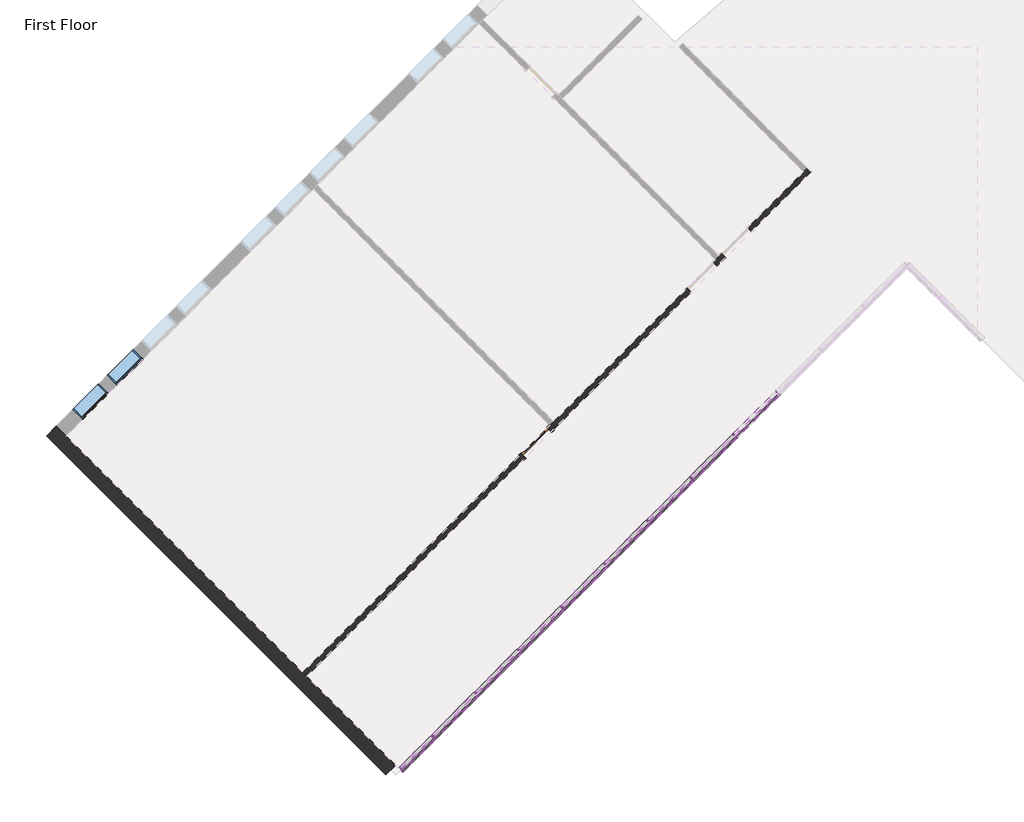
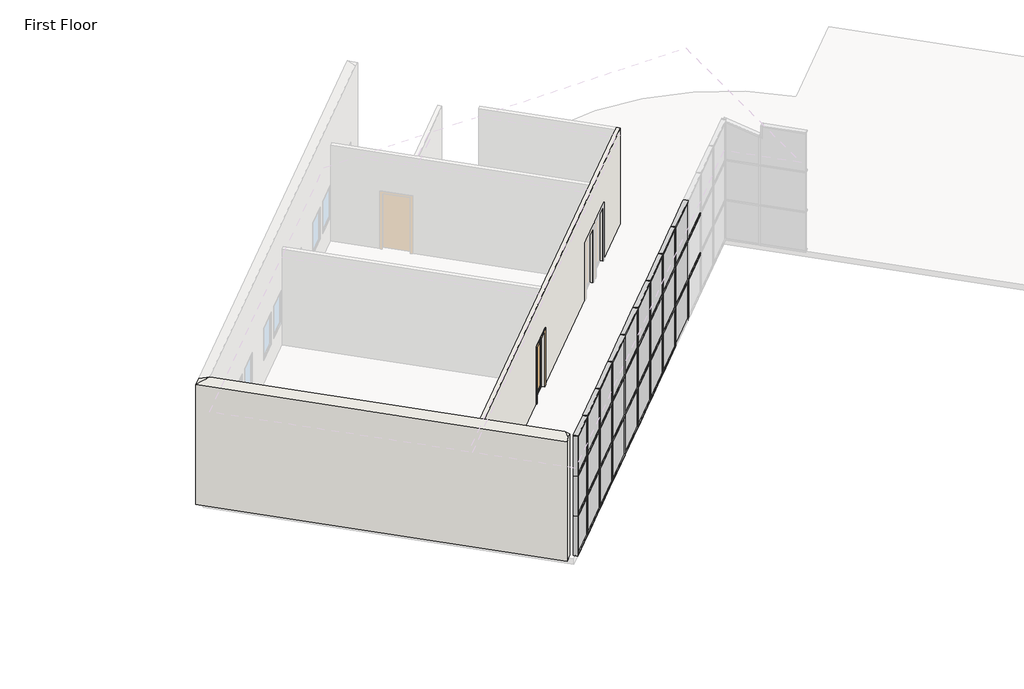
# One storey, part 1 of 4: 65 members, 27 plates, 2 walls, 2 windows, 1 door.
"""IFC4 building model written with IfcOpenShell, lengths in millimetres."""

from ifc_helpers import new_model, si_unit, origin, place, context, project, spatial, faceted_brep, transform, mapped, element, save
from components import m_single_glass_1_0915_x_2134mm_fb3287b7, rectangular_mullion_50_x_150mm_a1635f5b, rectangular_mullion_50_x_150mm_40297ad3, rectangular_mullion_50_x_150mm_f494fff1, rectangular_mullion_50_x_150mm_97ff1a0c, rectangular_mullion_50_x_150mm_5da8f88f, rectangular_mullion_50_x_150mm_6261b450, rectangular_mullion_50_x_150mm_4d330a12, rectangular_mullion_50_x_150mm_c13bad7a, system_panel_glazed_a417ca2b, system_panel_glazed_7c4ff273, system_panel_glazed_0df73d5a, system_panel_glazed_71216330, system_panel_solid_7096e89f, system_panel_solid_df1dc4a9, m_fixed_0915_x_1220mm_bde29121

model = new_model("IFC4")

# Units and contexts
model_context = context("Model", 3, world=origin())
ifc_project = project(units=[si_unit("LENGTHUNIT", "METRE", prefix="MILLI")], contexts=[model_context])

# Site, building, storey
site = spatial("IfcSite", under=ifc_project)
building = spatial("IfcBuilding", under=site)
storey = spatial("IfcBuildingStorey", under=building, Name="First Floor", Elevation=0.0)

# Door
placement = place(None, origin())
m_single_glass_1_0915_x_2134mm_shape = m_single_glass_1_0915_x_2134mm_fb3287b7(model_context)
element("IfcDoor", 1, ObjectType="M_Single-Glass 1 : 0915 x 2134mm", at=placement, inside=storey, context=model_context, shape_type="MappedRepresentation", body=[
    mapped(m_single_glass_1_0915_x_2134mm_shape, transform((-10885.2041795, -2483.8084826, 0.0), x_axis=(0.7071067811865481, 0.7071067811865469, 0.0), y_axis=(-0.7071067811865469, 0.7071067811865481, 0.0), z_axis=(0.0, 0.0, 1.0))),
])

# Members
rectangular_mullion_50_x_150mm_shape = rectangular_mullion_50_x_150mm_a1635f5b(model_context)
element("IfcMember", 2, ObjectType="Rectangular Mullion : 50 x 150mm", at=placement, inside=storey, context=model_context, shape_type="MappedRepresentation", body=[
    mapped(rectangular_mullion_50_x_150mm_shape, transform((-14249.9717978, -10654.0737858, 4571.7250795), x_axis=(0.0, 0.0, 1.0), y_axis=(-0.7071067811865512, 0.7071067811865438, 0.0), z_axis=(-0.7071067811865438, -0.7071067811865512, 0.0))),
])
rectangular_mullion_50_x_150mm_2_shape = rectangular_mullion_50_x_150mm_40297ad3(model_context)
element("IfcMember", 3, ObjectType="Rectangular Mullion : 50 x 150mm", at=placement, inside=storey, context=model_context, shape_type="MappedRepresentation", body=[
    mapped(rectangular_mullion_50_x_150mm_2_shape, transform((-4834.1378995, -1238.2398875, 0.0), x_axis=(-0.7071067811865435, -0.7071067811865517, 0.0), y_axis=(-0.7071067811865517, 0.7071067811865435, 0.0), z_axis=(0.0, 0.0, -1.0))),
])
element("IfcMember", 4, ObjectType="Rectangular Mullion : 50 x 150mm", at=placement, inside=storey, context=model_context, shape_type="MappedRepresentation", body=[
    mapped(rectangular_mullion_50_x_150mm_2_shape, transform((-5911.768634, -2315.870622, 0.0), x_axis=(-0.7071067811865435, -0.7071067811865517, 0.0), y_axis=(-0.7071067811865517, 0.7071067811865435, 0.0), z_axis=(0.0, 0.0, -1.0))),
])
element("IfcMember", 5, ObjectType="Rectangular Mullion : 50 x 150mm", at=placement, inside=storey, context=model_context, shape_type="MappedRepresentation", body=[
    mapped(rectangular_mullion_50_x_150mm_2_shape, transform((-6989.3993686, -3393.5013566, 0.0), x_axis=(-0.7071067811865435, -0.7071067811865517, 0.0), y_axis=(-0.7071067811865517, 0.7071067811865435, 0.0), z_axis=(0.0, 0.0, -1.0))),
])
element("IfcMember", 6, ObjectType="Rectangular Mullion : 50 x 150mm", at=placement, inside=storey, context=model_context, shape_type="MappedRepresentation", body=[
    mapped(rectangular_mullion_50_x_150mm_2_shape, transform((-8067.0301031, -4471.1320911, 0.0), x_axis=(-0.7071067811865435, -0.7071067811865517, 0.0), y_axis=(-0.7071067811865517, 0.7071067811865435, 0.0), z_axis=(0.0, 0.0, -1.0))),
])
element("IfcMember", 7, ObjectType="Rectangular Mullion : 50 x 150mm", at=placement, inside=storey, context=model_context, shape_type="MappedRepresentation", body=[
    mapped(rectangular_mullion_50_x_150mm_2_shape, transform((-9144.6608376, -5548.7628256, 0.0), x_axis=(-0.7071067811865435, -0.7071067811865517, 0.0), y_axis=(-0.7071067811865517, 0.7071067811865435, 0.0), z_axis=(0.0, 0.0, -1.0))),
])
element("IfcMember", 8, ObjectType="Rectangular Mullion : 50 x 150mm", at=placement, inside=storey, context=model_context, shape_type="MappedRepresentation", body=[
    mapped(rectangular_mullion_50_x_150mm_2_shape, transform((-10222.2915721, -6626.3935602, 0.0), x_axis=(-0.7071067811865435, -0.7071067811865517, 0.0), y_axis=(-0.7071067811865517, 0.7071067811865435, 0.0), z_axis=(0.0, 0.0, -1.0))),
])
element("IfcMember", 9, ObjectType="Rectangular Mullion : 50 x 150mm", at=placement, inside=storey, context=model_context, shape_type="MappedRepresentation", body=[
    mapped(rectangular_mullion_50_x_150mm_2_shape, transform((-11299.9223067, -7704.0242947, 0.0), x_axis=(-0.7071067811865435, -0.7071067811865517, 0.0), y_axis=(-0.7071067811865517, 0.7071067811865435, 0.0), z_axis=(0.0, 0.0, -1.0))),
])
element("IfcMember", 10, ObjectType="Rectangular Mullion : 50 x 150mm", at=placement, inside=storey, context=model_context, shape_type="MappedRepresentation", body=[
    mapped(rectangular_mullion_50_x_150mm_2_shape, transform((-12377.5530412, -8781.6550292, 0.0), x_axis=(-0.7071067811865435, -0.7071067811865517, 0.0), y_axis=(-0.7071067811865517, 0.7071067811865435, 0.0), z_axis=(0.0, 0.0, -1.0))),
])
element("IfcMember", 11, ObjectType="Rectangular Mullion : 50 x 150mm", at=placement, inside=storey, context=model_context, shape_type="MappedRepresentation", body=[
    mapped(rectangular_mullion_50_x_150mm_2_shape, transform((-13455.1837757, -9859.2857637, 0.0), x_axis=(-0.7071067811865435, -0.7071067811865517, 0.0), y_axis=(-0.7071067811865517, 0.7071067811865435, 0.0), z_axis=(0.0, 0.0, -1.0))),
])
rectangular_mullion_50_x_150mm_3_shape = rectangular_mullion_50_x_150mm_f494fff1(model_context)
element("IfcMember", 12, ObjectType="Rectangular Mullion : 50 x 150mm", at=placement, inside=storey, context=model_context, shape_type="MappedRepresentation", body=[
    mapped(rectangular_mullion_50_x_150mm_3_shape, transform((-4816.46023, -1220.562218, 1524.0), x_axis=(0.0, 0.0, 1.0), y_axis=(-0.7071067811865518, 0.7071067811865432, 0.0), z_axis=(-0.7071067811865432, -0.7071067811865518, 0.0))),
])
element("IfcMember", 13, ObjectType="Rectangular Mullion : 50 x 150mm", at=placement, inside=storey, context=model_context, shape_type="MappedRepresentation", body=[
    mapped(rectangular_mullion_50_x_150mm_3_shape, transform((-5894.0909645, -2298.1929525, 1524.0), x_axis=(0.0, 0.0, 1.0), y_axis=(-0.7071067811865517, 0.7071067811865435, 0.0), z_axis=(-0.7071067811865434, -0.7071067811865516, 0.0))),
])
element("IfcMember", 14, ObjectType="Rectangular Mullion : 50 x 150mm", at=placement, inside=storey, context=model_context, shape_type="MappedRepresentation", body=[
    mapped(rectangular_mullion_50_x_150mm_3_shape, transform((-6971.721699, -3375.823687, 1524.0), x_axis=(0.0, 0.0, 1.0), y_axis=(-0.7071067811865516, 0.7071067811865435, 0.0), z_axis=(-0.7071067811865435, -0.7071067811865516, 0.0))),
])
element("IfcMember", 15, ObjectType="Rectangular Mullion : 50 x 150mm", at=placement, inside=storey, context=model_context, shape_type="MappedRepresentation", body=[
    mapped(rectangular_mullion_50_x_150mm_3_shape, transform((-8049.3524335, -4453.4544216, 1524.0), x_axis=(0.0, 0.0, 1.0), y_axis=(-0.7071067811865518, 0.7071067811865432, 0.0), z_axis=(-0.7071067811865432, -0.7071067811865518, 0.0))),
])
element("IfcMember", 16, ObjectType="Rectangular Mullion : 50 x 150mm", at=placement, inside=storey, context=model_context, shape_type="MappedRepresentation", body=[
    mapped(rectangular_mullion_50_x_150mm_3_shape, transform((-9126.9831681, -5531.0851561, 1524.0), x_axis=(0.0, 0.0, 1.0), y_axis=(-0.7071067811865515, 0.7071067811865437, 0.0), z_axis=(-0.7071067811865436, -0.7071067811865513, 0.0))),
])
element("IfcMember", 17, ObjectType="Rectangular Mullion : 50 x 150mm", at=placement, inside=storey, context=model_context, shape_type="MappedRepresentation", body=[
    mapped(rectangular_mullion_50_x_150mm_3_shape, transform((-10204.6139026, -6608.7158906, 1524.0), x_axis=(0.0, 0.0, 1.0), y_axis=(-0.7071067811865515, 0.7071067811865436, 0.0), z_axis=(-0.7071067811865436, -0.7071067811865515, 0.0))),
])
element("IfcMember", 18, ObjectType="Rectangular Mullion : 50 x 150mm", at=placement, inside=storey, context=model_context, shape_type="MappedRepresentation", body=[
    mapped(rectangular_mullion_50_x_150mm_3_shape, transform((-11282.2446371, -7686.3466252, 1524.0), x_axis=(0.0, 0.0, 1.0), y_axis=(-0.7071067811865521, 0.7071067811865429, 0.0), z_axis=(-0.7071067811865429, -0.7071067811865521, 0.0))),
])
element("IfcMember", 19, ObjectType="Rectangular Mullion : 50 x 150mm", at=placement, inside=storey, context=model_context, shape_type="MappedRepresentation", body=[
    mapped(rectangular_mullion_50_x_150mm_3_shape, transform((-12359.8753717, -8763.9773597, 1524.0), x_axis=(0.0, 0.0, 1.0), y_axis=(-0.7071067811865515, 0.7071067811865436, 0.0), z_axis=(-0.7071067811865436, -0.7071067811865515, 0.0))),
])
element("IfcMember", 20, ObjectType="Rectangular Mullion : 50 x 150mm", at=placement, inside=storey, context=model_context, shape_type="MappedRepresentation", body=[
    mapped(rectangular_mullion_50_x_150mm_3_shape, transform((-13437.5061062, -9841.6080942, 1524.0), x_axis=(0.0, 0.0, 1.0), y_axis=(-0.7071067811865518, 0.7071067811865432, 0.0), z_axis=(-0.7071067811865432, -0.7071067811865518, 0.0))),
])
element("IfcMember", 21, ObjectType="Rectangular Mullion : 50 x 150mm", at=placement, inside=storey, context=model_context, shape_type="MappedRepresentation", body=[
    mapped(rectangular_mullion_50_x_150mm_3_shape, transform((-4816.46023, -1220.562218, 3048.0), x_axis=(0.0, 0.0, 1.0), y_axis=(-0.7071067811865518, 0.7071067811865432, 0.0), z_axis=(-0.7071067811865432, -0.7071067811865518, 0.0))),
])
element("IfcMember", 22, ObjectType="Rectangular Mullion : 50 x 150mm", at=placement, inside=storey, context=model_context, shape_type="MappedRepresentation", body=[
    mapped(rectangular_mullion_50_x_150mm_3_shape, transform((-5894.0909645, -2298.1929525, 3048.0), x_axis=(0.0, 0.0, 1.0), y_axis=(-0.7071067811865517, 0.7071067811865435, 0.0), z_axis=(-0.7071067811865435, -0.7071067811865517, 0.0))),
])
element("IfcMember", 23, ObjectType="Rectangular Mullion : 50 x 150mm", at=placement, inside=storey, context=model_context, shape_type="MappedRepresentation", body=[
    mapped(rectangular_mullion_50_x_150mm_3_shape, transform((-6971.721699, -3375.823687, 3048.0), x_axis=(0.0, 0.0, 1.0), y_axis=(-0.7071067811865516, 0.7071067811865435, 0.0), z_axis=(-0.7071067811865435, -0.7071067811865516, 0.0))),
])
element("IfcMember", 24, ObjectType="Rectangular Mullion : 50 x 150mm", at=placement, inside=storey, context=model_context, shape_type="MappedRepresentation", body=[
    mapped(rectangular_mullion_50_x_150mm_3_shape, transform((-8049.3524335, -4453.4544216, 3048.0), x_axis=(0.0, 0.0, 1.0), y_axis=(-0.7071067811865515, 0.7071067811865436, 0.0), z_axis=(-0.7071067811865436, -0.7071067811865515, 0.0))),
])
element("IfcMember", 25, ObjectType="Rectangular Mullion : 50 x 150mm", at=placement, inside=storey, context=model_context, shape_type="MappedRepresentation", body=[
    mapped(rectangular_mullion_50_x_150mm_3_shape, transform((-9126.9831681, -5531.0851561, 3048.0), x_axis=(0.0, 0.0, 1.0), y_axis=(-0.7071067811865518, 0.7071067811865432, 0.0), z_axis=(-0.7071067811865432, -0.7071067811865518, 0.0))),
])
element("IfcMember", 26, ObjectType="Rectangular Mullion : 50 x 150mm", at=placement, inside=storey, context=model_context, shape_type="MappedRepresentation", body=[
    mapped(rectangular_mullion_50_x_150mm_3_shape, transform((-10204.6139026, -6608.7158906, 3048.0), x_axis=(0.0, 0.0, 1.0), y_axis=(-0.7071067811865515, 0.7071067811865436, 0.0), z_axis=(-0.7071067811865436, -0.7071067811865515, 0.0))),
])
element("IfcMember", 27, ObjectType="Rectangular Mullion : 50 x 150mm", at=placement, inside=storey, context=model_context, shape_type="MappedRepresentation", body=[
    mapped(rectangular_mullion_50_x_150mm_3_shape, transform((-11282.2446371, -7686.3466252, 3048.0), x_axis=(0.0, 0.0, 1.0), y_axis=(-0.7071067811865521, 0.7071067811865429, 0.0), z_axis=(-0.7071067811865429, -0.7071067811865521, 0.0))),
])
element("IfcMember", 28, ObjectType="Rectangular Mullion : 50 x 150mm", at=placement, inside=storey, context=model_context, shape_type="MappedRepresentation", body=[
    mapped(rectangular_mullion_50_x_150mm_3_shape, transform((-12359.8753717, -8763.9773597, 3048.0), x_axis=(0.0, 0.0, 1.0), y_axis=(-0.7071067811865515, 0.7071067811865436, 0.0), z_axis=(-0.7071067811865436, -0.7071067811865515, 0.0))),
])
element("IfcMember", 29, ObjectType="Rectangular Mullion : 50 x 150mm", at=placement, inside=storey, context=model_context, shape_type="MappedRepresentation", body=[
    mapped(rectangular_mullion_50_x_150mm_3_shape, transform((-13437.5061062, -9841.6080942, 3048.0), x_axis=(0.0, 0.0, 1.0), y_axis=(-0.7071067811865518, 0.7071067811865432, 0.0), z_axis=(-0.7071067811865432, -0.7071067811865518, 0.0))),
])
rectangular_mullion_50_x_150mm_4_shape = rectangular_mullion_50_x_150mm_97ff1a0c(model_context)
element("IfcMember", 30, ObjectType="Rectangular Mullion : 50 x 150mm", at=placement, inside=storey, context=model_context, shape_type="MappedRepresentation", body=[
    mapped(rectangular_mullion_50_x_150mm_4_shape, transform((-14249.9717978, -10654.0737858, 1524.0), x_axis=(0.0, 0.0, 1.0), y_axis=(-0.7071067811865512, 0.7071067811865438, 0.0), z_axis=(-0.7071067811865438, -0.7071067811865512, 0.0))),
])
element("IfcMember", 31, ObjectType="Rectangular Mullion : 50 x 150mm", at=placement, inside=storey, context=model_context, shape_type="MappedRepresentation", body=[
    mapped(rectangular_mullion_50_x_150mm_4_shape, transform((-14249.9717978, -10654.0737858, 3048.0), x_axis=(0.0, 0.0, 1.0), y_axis=(-0.7071067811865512, 0.7071067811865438, 0.0), z_axis=(-0.7071067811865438, -0.7071067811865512, 0.0))),
])
rectangular_mullion_50_x_150mm_5_shape = rectangular_mullion_50_x_150mm_5da8f88f(model_context)
element("IfcMember", 32, ObjectType="Rectangular Mullion : 50 x 150mm", at=placement, inside=storey, context=model_context, shape_type="MappedRepresentation", body=[
    mapped(rectangular_mullion_50_x_150mm_5_shape, transform((-5929.4463036, -2333.5482916, 0.0), x_axis=(0.0, 0.0, -1.0), y_axis=(-0.7071067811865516, 0.7071067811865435, 0.0), z_axis=(0.7071067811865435, 0.7071067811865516, 0.0))),
])
element("IfcMember", 33, ObjectType="Rectangular Mullion : 50 x 150mm", at=placement, inside=storey, context=model_context, shape_type="MappedRepresentation", body=[
    mapped(rectangular_mullion_50_x_150mm_5_shape, transform((-7007.0770381, -3411.1790261, 0.0), x_axis=(0.0, 0.0, -1.0), y_axis=(-0.7071067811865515, 0.7071067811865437, 0.0), z_axis=(0.7071067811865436, 0.7071067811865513, 0.0))),
])
element("IfcMember", 34, ObjectType="Rectangular Mullion : 50 x 150mm", at=placement, inside=storey, context=model_context, shape_type="MappedRepresentation", body=[
    mapped(rectangular_mullion_50_x_150mm_5_shape, transform((-8084.7077726, -4488.8097606, 0.0), x_axis=(0.0, 0.0, -1.0), y_axis=(-0.7071067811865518, 0.7071067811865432, 0.0), z_axis=(0.7071067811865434, 0.7071067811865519, 0.0))),
])
element("IfcMember", 35, ObjectType="Rectangular Mullion : 50 x 150mm", at=placement, inside=storey, context=model_context, shape_type="MappedRepresentation", body=[
    mapped(rectangular_mullion_50_x_150mm_5_shape, transform((-9162.3385071, -5566.4404952, 0.0), x_axis=(0.0, 0.0, -1.0), y_axis=(-0.7071067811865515, 0.7071067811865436, 0.0), z_axis=(0.7071067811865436, 0.7071067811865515, 0.0))),
])
element("IfcMember", 36, ObjectType="Rectangular Mullion : 50 x 150mm", at=placement, inside=storey, context=model_context, shape_type="MappedRepresentation", body=[
    mapped(rectangular_mullion_50_x_150mm_5_shape, transform((-10239.9692417, -6644.0712297, 0.0), x_axis=(0.0, 0.0, -1.0), y_axis=(-0.7071067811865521, 0.7071067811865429, 0.0), z_axis=(0.7071067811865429, 0.7071067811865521, 0.0))),
])
element("IfcMember", 37, ObjectType="Rectangular Mullion : 50 x 150mm", at=placement, inside=storey, context=model_context, shape_type="MappedRepresentation", body=[
    mapped(rectangular_mullion_50_x_150mm_5_shape, transform((-11317.5999762, -7721.7019642, 0.0), x_axis=(0.0, 0.0, -1.0), y_axis=(-0.7071067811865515, 0.7071067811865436, 0.0), z_axis=(0.7071067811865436, 0.7071067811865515, 0.0))),
])
element("IfcMember", 38, ObjectType="Rectangular Mullion : 50 x 150mm", at=placement, inside=storey, context=model_context, shape_type="MappedRepresentation", body=[
    mapped(rectangular_mullion_50_x_150mm_5_shape, transform((-12395.2307107, -8799.3326987, 0.0), x_axis=(0.0, 0.0, -1.0), y_axis=(-0.7071067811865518, 0.7071067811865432, 0.0), z_axis=(0.7071067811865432, 0.7071067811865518, 0.0))),
])
element("IfcMember", 39, ObjectType="Rectangular Mullion : 50 x 150mm", at=placement, inside=storey, context=model_context, shape_type="MappedRepresentation", body=[
    mapped(rectangular_mullion_50_x_150mm_shape, transform((-13472.8614453, -9876.9634333, 0.0), x_axis=(0.0, 0.0, -1.0), y_axis=(-0.7071067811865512, 0.7071067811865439, 0.0), z_axis=(0.7071067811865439, 0.7071067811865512, 0.0))),
])
element("IfcMember", 40, ObjectType="Rectangular Mullion : 50 x 150mm", at=placement, inside=storey, context=model_context, shape_type="MappedRepresentation", body=[
    mapped(rectangular_mullion_50_x_150mm_5_shape, transform((-5894.0909645, -2298.1929525, 4571.7250795), x_axis=(0.0, 0.0, 1.0), y_axis=(-0.7071067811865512, 0.7071067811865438, 0.0), z_axis=(-0.7071067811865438, -0.7071067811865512, 0.0))),
])
element("IfcMember", 41, ObjectType="Rectangular Mullion : 50 x 150mm", at=placement, inside=storey, context=model_context, shape_type="MappedRepresentation", body=[
    mapped(rectangular_mullion_50_x_150mm_5_shape, transform((-6971.721699, -3375.823687, 4571.7250795), x_axis=(0.0, 0.0, 1.0), y_axis=(-0.707106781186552, 0.7071067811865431, 0.0), z_axis=(-0.707106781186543, -0.7071067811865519, 0.0))),
])
element("IfcMember", 42, ObjectType="Rectangular Mullion : 50 x 150mm", at=placement, inside=storey, context=model_context, shape_type="MappedRepresentation", body=[
    mapped(rectangular_mullion_50_x_150mm_5_shape, transform((-8049.3524335, -4453.4544216, 4571.7250795), x_axis=(0.0, 0.0, 1.0), y_axis=(-0.7071067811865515, 0.7071067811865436, 0.0), z_axis=(-0.7071067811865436, -0.7071067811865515, 0.0))),
])
element("IfcMember", 43, ObjectType="Rectangular Mullion : 50 x 150mm", at=placement, inside=storey, context=model_context, shape_type="MappedRepresentation", body=[
    mapped(rectangular_mullion_50_x_150mm_5_shape, transform((-9126.9831681, -5531.0851561, 4571.7250795), x_axis=(0.0, 0.0, 1.0), y_axis=(-0.7071067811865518, 0.7071067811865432, 0.0), z_axis=(-0.7071067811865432, -0.7071067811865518, 0.0))),
])
element("IfcMember", 44, ObjectType="Rectangular Mullion : 50 x 150mm", at=placement, inside=storey, context=model_context, shape_type="MappedRepresentation", body=[
    mapped(rectangular_mullion_50_x_150mm_5_shape, transform((-10204.6139026, -6608.7158906, 4571.7250795), x_axis=(0.0, 0.0, 1.0), y_axis=(-0.7071067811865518, 0.7071067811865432, 0.0), z_axis=(-0.7071067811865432, -0.7071067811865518, 0.0))),
])
element("IfcMember", 45, ObjectType="Rectangular Mullion : 50 x 150mm", at=placement, inside=storey, context=model_context, shape_type="MappedRepresentation", body=[
    mapped(rectangular_mullion_50_x_150mm_5_shape, transform((-11282.2446371, -7686.3466252, 4571.7250795), x_axis=(0.0, 0.0, 1.0), y_axis=(-0.7071067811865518, 0.7071067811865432, 0.0), z_axis=(-0.7071067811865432, -0.7071067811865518, 0.0))),
])
element("IfcMember", 46, ObjectType="Rectangular Mullion : 50 x 150mm", at=placement, inside=storey, context=model_context, shape_type="MappedRepresentation", body=[
    mapped(rectangular_mullion_50_x_150mm_5_shape, transform((-12359.8753717, -8763.9773597, 4571.7250795), x_axis=(0.0, 0.0, 1.0), y_axis=(-0.7071067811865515, 0.7071067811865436, 0.0), z_axis=(-0.7071067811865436, -0.7071067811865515, 0.0))),
])
element("IfcMember", 47, ObjectType="Rectangular Mullion : 50 x 150mm", at=placement, inside=storey, context=model_context, shape_type="MappedRepresentation", body=[
    mapped(rectangular_mullion_50_x_150mm_5_shape, transform((-13437.5061062, -9841.6080942, 4571.7250795), x_axis=(0.0, 0.0, 1.0), y_axis=(-0.7071067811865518, 0.7071067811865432, 0.0), z_axis=(-0.7071067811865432, -0.7071067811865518, 0.0))),
])
element("IfcMember", 48, ObjectType="Rectangular Mullion : 50 x 150mm", at=placement, inside=storey, context=model_context, shape_type="MappedRepresentation", body=[
    mapped(rectangular_mullion_50_x_150mm_2_shape, transform((-5911.768634, -2315.870622, 1524.0), x_axis=(-0.7071067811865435, -0.7071067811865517, 0.0), y_axis=(-0.7071067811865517, 0.7071067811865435, 0.0), z_axis=(0.0, 0.0, -1.0))),
])
element("IfcMember", 49, ObjectType="Rectangular Mullion : 50 x 150mm", at=placement, inside=storey, context=model_context, shape_type="MappedRepresentation", body=[
    mapped(rectangular_mullion_50_x_150mm_2_shape, transform((-6989.3993686, -3393.5013566, 1524.0), x_axis=(-0.7071067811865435, -0.7071067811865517, 0.0), y_axis=(-0.7071067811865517, 0.7071067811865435, 0.0), z_axis=(0.0, 0.0, -1.0))),
])
element("IfcMember", 50, ObjectType="Rectangular Mullion : 50 x 150mm", at=placement, inside=storey, context=model_context, shape_type="MappedRepresentation", body=[
    mapped(rectangular_mullion_50_x_150mm_2_shape, transform((-8067.0301031, -4471.1320911, 1524.0), x_axis=(-0.7071067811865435, -0.7071067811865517, 0.0), y_axis=(-0.7071067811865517, 0.7071067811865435, 0.0), z_axis=(0.0, 0.0, -1.0))),
])
element("IfcMember", 51, ObjectType="Rectangular Mullion : 50 x 150mm", at=placement, inside=storey, context=model_context, shape_type="MappedRepresentation", body=[
    mapped(rectangular_mullion_50_x_150mm_2_shape, transform((-9144.6608376, -5548.7628256, 1524.0), x_axis=(-0.7071067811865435, -0.7071067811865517, 0.0), y_axis=(-0.7071067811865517, 0.7071067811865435, 0.0), z_axis=(0.0, 0.0, -1.0))),
])
element("IfcMember", 52, ObjectType="Rectangular Mullion : 50 x 150mm", at=placement, inside=storey, context=model_context, shape_type="MappedRepresentation", body=[
    mapped(rectangular_mullion_50_x_150mm_2_shape, transform((-10222.2915721, -6626.3935602, 1524.0), x_axis=(-0.7071067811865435, -0.7071067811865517, 0.0), y_axis=(-0.7071067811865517, 0.7071067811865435, 0.0), z_axis=(0.0, 0.0, -1.0))),
])
element("IfcMember", 53, ObjectType="Rectangular Mullion : 50 x 150mm", at=placement, inside=storey, context=model_context, shape_type="MappedRepresentation", body=[
    mapped(rectangular_mullion_50_x_150mm_2_shape, transform((-11299.9223067, -7704.0242947, 1524.0), x_axis=(-0.7071067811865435, -0.7071067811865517, 0.0), y_axis=(-0.7071067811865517, 0.7071067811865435, 0.0), z_axis=(0.0, 0.0, -1.0))),
])
element("IfcMember", 54, ObjectType="Rectangular Mullion : 50 x 150mm", at=placement, inside=storey, context=model_context, shape_type="MappedRepresentation", body=[
    mapped(rectangular_mullion_50_x_150mm_2_shape, transform((-12377.5530412, -8781.6550292, 1524.0), x_axis=(-0.7071067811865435, -0.7071067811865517, 0.0), y_axis=(-0.7071067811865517, 0.7071067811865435, 0.0), z_axis=(0.0, 0.0, -1.0))),
])
element("IfcMember", 55, ObjectType="Rectangular Mullion : 50 x 150mm", at=placement, inside=storey, context=model_context, shape_type="MappedRepresentation", body=[
    mapped(rectangular_mullion_50_x_150mm_2_shape, transform((-13455.1837757, -9859.2857637, 1524.0), x_axis=(-0.7071067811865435, -0.7071067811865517, 0.0), y_axis=(-0.7071067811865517, 0.7071067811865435, 0.0), z_axis=(0.0, 0.0, -1.0))),
])
rectangular_mullion_50_x_150mm_6_shape = rectangular_mullion_50_x_150mm_6261b450(model_context)
element("IfcMember", 56, ObjectType="Rectangular Mullion : 50 x 150mm", at=placement, inside=storey, context=model_context, shape_type="MappedRepresentation", body=[
    mapped(rectangular_mullion_50_x_150mm_6_shape, transform((-5911.768634, -2315.870622, 3048.0), x_axis=(-0.7071067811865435, -0.7071067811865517, 0.0), y_axis=(-0.7071067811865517, 0.7071067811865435, 0.0), z_axis=(0.0, 0.0, -1.0))),
])
element("IfcMember", 57, ObjectType="Rectangular Mullion : 50 x 150mm", at=placement, inside=storey, context=model_context, shape_type="MappedRepresentation", body=[
    mapped(rectangular_mullion_50_x_150mm_6_shape, transform((-6989.3993686, -3393.5013566, 3048.0), x_axis=(-0.7071067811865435, -0.7071067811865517, 0.0), y_axis=(-0.7071067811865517, 0.7071067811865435, 0.0), z_axis=(0.0, 0.0, -1.0))),
])
element("IfcMember", 58, ObjectType="Rectangular Mullion : 50 x 150mm", at=placement, inside=storey, context=model_context, shape_type="MappedRepresentation", body=[
    mapped(rectangular_mullion_50_x_150mm_6_shape, transform((-8067.0301031, -4471.1320911, 3048.0), x_axis=(-0.7071067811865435, -0.7071067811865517, 0.0), y_axis=(-0.7071067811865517, 0.7071067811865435, 0.0), z_axis=(0.0, 0.0, -1.0))),
])
element("IfcMember", 59, ObjectType="Rectangular Mullion : 50 x 150mm", at=placement, inside=storey, context=model_context, shape_type="MappedRepresentation", body=[
    mapped(rectangular_mullion_50_x_150mm_6_shape, transform((-9144.6608376, -5548.7628256, 3048.0), x_axis=(-0.7071067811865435, -0.7071067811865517, 0.0), y_axis=(-0.7071067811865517, 0.7071067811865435, 0.0), z_axis=(0.0, 0.0, -1.0))),
])
element("IfcMember", 60, ObjectType="Rectangular Mullion : 50 x 150mm", at=placement, inside=storey, context=model_context, shape_type="MappedRepresentation", body=[
    mapped(rectangular_mullion_50_x_150mm_6_shape, transform((-10222.2915721, -6626.3935602, 3048.0), x_axis=(-0.7071067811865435, -0.7071067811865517, 0.0), y_axis=(-0.7071067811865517, 0.7071067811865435, 0.0), z_axis=(0.0, 0.0, -1.0))),
])
element("IfcMember", 61, ObjectType="Rectangular Mullion : 50 x 150mm", at=placement, inside=storey, context=model_context, shape_type="MappedRepresentation", body=[
    mapped(rectangular_mullion_50_x_150mm_6_shape, transform((-11299.9223067, -7704.0242947, 3048.0), x_axis=(-0.7071067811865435, -0.7071067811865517, 0.0), y_axis=(-0.7071067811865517, 0.7071067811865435, 0.0), z_axis=(0.0, 0.0, -1.0))),
])
element("IfcMember", 62, ObjectType="Rectangular Mullion : 50 x 150mm", at=placement, inside=storey, context=model_context, shape_type="MappedRepresentation", body=[
    mapped(rectangular_mullion_50_x_150mm_6_shape, transform((-12377.5530412, -8781.6550292, 3048.0), x_axis=(-0.7071067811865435, -0.7071067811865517, 0.0), y_axis=(-0.7071067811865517, 0.7071067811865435, 0.0), z_axis=(0.0, 0.0, -1.0))),
])
element("IfcMember", 63, ObjectType="Rectangular Mullion : 50 x 150mm", at=placement, inside=storey, context=model_context, shape_type="MappedRepresentation", body=[
    mapped(rectangular_mullion_50_x_150mm_6_shape, transform((-13455.1837757, -9859.2857637, 3048.0), x_axis=(-0.7071067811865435, -0.7071067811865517, 0.0), y_axis=(-0.7071067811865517, 0.7071067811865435, 0.0), z_axis=(0.0, 0.0, -1.0))),
])
rectangular_mullion_50_x_150mm_7_shape = rectangular_mullion_50_x_150mm_4d330a12(model_context)
element("IfcMember", 64, ObjectType="Rectangular Mullion : 50 x 150mm", at=placement, inside=storey, context=model_context, shape_type="MappedRepresentation", body=[
    mapped(rectangular_mullion_50_x_150mm_7_shape, transform((-14285.3271368, -10689.4291248, 0.0), x_axis=(-0.7071067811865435, -0.7071067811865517, 0.0), y_axis=(-0.7071067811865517, 0.7071067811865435, 0.0), z_axis=(0.0, 0.0, -1.0))),
])
element("IfcMember", 65, ObjectType="Rectangular Mullion : 50 x 150mm", at=placement, inside=storey, context=model_context, shape_type="MappedRepresentation", body=[
    mapped(rectangular_mullion_50_x_150mm_7_shape, transform((-14285.3271368, -10689.4291248, 1524.0), x_axis=(-0.7071067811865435, -0.7071067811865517, 0.0), y_axis=(-0.7071067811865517, 0.7071067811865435, 0.0), z_axis=(0.0, 0.0, -1.0))),
])
rectangular_mullion_50_x_150mm_8_shape = rectangular_mullion_50_x_150mm_c13bad7a(model_context)
element("IfcMember", 66, ObjectType="Rectangular Mullion : 50 x 150mm", at=placement, inside=storey, context=model_context, shape_type="MappedRepresentation", body=[
    mapped(rectangular_mullion_50_x_150mm_8_shape, transform((-14285.3271368, -10689.4291248, 3048.0), x_axis=(-0.7071067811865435, -0.7071067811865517, 0.0), y_axis=(-0.7071067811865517, 0.7071067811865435, 0.0), z_axis=(0.0, 0.0, -1.0))),
])

# Plates
system_panel_glazed_shape = system_panel_glazed_a417ca2b(model_context)
element("IfcPlate", 67, ObjectType="System Panel : Glazed", at=placement, inside=storey, context=model_context, shape_type="MappedRepresentation", body=[
    mapped(system_panel_glazed_shape, transform((-5372.9532668, -1777.0552548, 50.0), x_axis=(-0.7071067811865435, -0.7071067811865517, 0.0), y_axis=(0.7071067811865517, -0.7071067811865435, 0.0), z_axis=(0.0, 0.0, 1.0))),
])
element("IfcPlate", 68, ObjectType="System Panel : Glazed", at=placement, inside=storey, context=model_context, shape_type="MappedRepresentation", body=[
    mapped(system_panel_glazed_shape, transform((-6450.5840013, -2854.6859893, 50.0), x_axis=(-0.7071067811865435, -0.7071067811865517, 0.0), y_axis=(0.7071067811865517, -0.7071067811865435, 0.0), z_axis=(0.0, 0.0, 1.0))),
])
element("IfcPlate", 69, ObjectType="System Panel : Glazed", at=placement, inside=storey, context=model_context, shape_type="MappedRepresentation", body=[
    mapped(system_panel_glazed_shape, transform((-7528.2147358, -3932.3167238, 50.0), x_axis=(-0.7071067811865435, -0.7071067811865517, 0.0), y_axis=(0.7071067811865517, -0.7071067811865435, 0.0), z_axis=(0.0, 0.0, 1.0))),
])
element("IfcPlate", 70, ObjectType="System Panel : Glazed", at=placement, inside=storey, context=model_context, shape_type="MappedRepresentation", body=[
    mapped(system_panel_glazed_shape, transform((-8605.8454703, -5009.9474584, 50.0), x_axis=(-0.7071067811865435, -0.7071067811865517, 0.0), y_axis=(0.7071067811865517, -0.7071067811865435, 0.0), z_axis=(0.0, 0.0, 1.0))),
])
element("IfcPlate", 71, ObjectType="System Panel : Glazed", at=placement, inside=storey, context=model_context, shape_type="MappedRepresentation", body=[
    mapped(system_panel_glazed_shape, transform((-9683.4762049, -6087.5781929, 50.0), x_axis=(-0.7071067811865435, -0.7071067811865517, 0.0), y_axis=(0.7071067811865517, -0.7071067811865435, 0.0), z_axis=(0.0, 0.0, 1.0))),
])
element("IfcPlate", 72, ObjectType="System Panel : Glazed", at=placement, inside=storey, context=model_context, shape_type="MappedRepresentation", body=[
    mapped(system_panel_glazed_shape, transform((-10761.1069394, -7165.2089274, 50.0), x_axis=(-0.7071067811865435, -0.7071067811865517, 0.0), y_axis=(0.7071067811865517, -0.7071067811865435, 0.0), z_axis=(0.0, 0.0, 1.0))),
])
element("IfcPlate", 73, ObjectType="System Panel : Glazed", at=placement, inside=storey, context=model_context, shape_type="MappedRepresentation", body=[
    mapped(system_panel_glazed_shape, transform((-11838.7376739, -8242.8396619, 50.0), x_axis=(-0.7071067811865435, -0.7071067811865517, 0.0), y_axis=(0.7071067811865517, -0.7071067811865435, 0.0), z_axis=(0.0, 0.0, 1.0))),
])
element("IfcPlate", 74, ObjectType="System Panel : Glazed", at=placement, inside=storey, context=model_context, shape_type="MappedRepresentation", body=[
    mapped(system_panel_glazed_shape, transform((-12916.3684085, -9320.4703965, 50.0), x_axis=(-0.7071067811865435, -0.7071067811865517, 0.0), y_axis=(0.7071067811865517, -0.7071067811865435, 0.0), z_axis=(0.0, 0.0, 1.0))),
])
system_panel_glazed_2_shape = system_panel_glazed_7c4ff273(model_context)
element("IfcPlate", 75, ObjectType="System Panel : Glazed", at=placement, inside=storey, context=model_context, shape_type="MappedRepresentation", body=[
    mapped(system_panel_glazed_2_shape, transform((-5372.9532668, -1777.0552548, 1549.0), x_axis=(-0.7071067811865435, -0.7071067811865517, 0.0), y_axis=(0.7071067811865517, -0.7071067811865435, 0.0), z_axis=(0.0, 0.0, 1.0))),
])
element("IfcPlate", 76, ObjectType="System Panel : Glazed", at=placement, inside=storey, context=model_context, shape_type="MappedRepresentation", body=[
    mapped(system_panel_glazed_2_shape, transform((-6450.5840013, -2854.6859893, 1549.0), x_axis=(-0.7071067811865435, -0.7071067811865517, 0.0), y_axis=(0.7071067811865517, -0.7071067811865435, 0.0), z_axis=(0.0, 0.0, 1.0))),
])
element("IfcPlate", 77, ObjectType="System Panel : Glazed", at=placement, inside=storey, context=model_context, shape_type="MappedRepresentation", body=[
    mapped(system_panel_glazed_2_shape, transform((-7528.2147358, -3932.3167238, 1549.0), x_axis=(-0.7071067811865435, -0.7071067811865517, 0.0), y_axis=(0.7071067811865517, -0.7071067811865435, 0.0), z_axis=(0.0, 0.0, 1.0))),
])
element("IfcPlate", 78, ObjectType="System Panel : Glazed", at=placement, inside=storey, context=model_context, shape_type="MappedRepresentation", body=[
    mapped(system_panel_glazed_2_shape, transform((-8605.8454703, -5009.9474584, 1549.0), x_axis=(-0.7071067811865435, -0.7071067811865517, 0.0), y_axis=(0.7071067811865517, -0.7071067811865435, 0.0), z_axis=(0.0, 0.0, 1.0))),
])
element("IfcPlate", 79, ObjectType="System Panel : Glazed", at=placement, inside=storey, context=model_context, shape_type="MappedRepresentation", body=[
    mapped(system_panel_glazed_2_shape, transform((-9683.4762049, -6087.5781929, 1549.0), x_axis=(-0.7071067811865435, -0.7071067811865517, 0.0), y_axis=(0.7071067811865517, -0.7071067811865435, 0.0), z_axis=(0.0, 0.0, 1.0))),
])
element("IfcPlate", 80, ObjectType="System Panel : Glazed", at=placement, inside=storey, context=model_context, shape_type="MappedRepresentation", body=[
    mapped(system_panel_glazed_2_shape, transform((-10761.1069394, -7165.2089274, 1549.0), x_axis=(-0.7071067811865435, -0.7071067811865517, 0.0), y_axis=(0.7071067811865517, -0.7071067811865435, 0.0), z_axis=(0.0, 0.0, 1.0))),
])
element("IfcPlate", 81, ObjectType="System Panel : Glazed", at=placement, inside=storey, context=model_context, shape_type="MappedRepresentation", body=[
    mapped(system_panel_glazed_2_shape, transform((-11838.7376739, -8242.8396619, 1549.0), x_axis=(-0.7071067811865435, -0.7071067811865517, 0.0), y_axis=(0.7071067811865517, -0.7071067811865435, 0.0), z_axis=(0.0, 0.0, 1.0))),
])
element("IfcPlate", 82, ObjectType="System Panel : Glazed", at=placement, inside=storey, context=model_context, shape_type="MappedRepresentation", body=[
    mapped(system_panel_glazed_2_shape, transform((-12916.3684085, -9320.4703965, 1549.0), x_axis=(-0.7071067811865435, -0.7071067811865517, 0.0), y_axis=(0.7071067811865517, -0.7071067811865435, 0.0), z_axis=(0.0, 0.0, 1.0))),
])
system_panel_glazed_3_shape = system_panel_glazed_0df73d5a(model_context)
element("IfcPlate", 83, ObjectType="System Panel : Glazed", at=placement, inside=storey, context=model_context, shape_type="MappedRepresentation", body=[
    mapped(system_panel_glazed_3_shape, transform((-13861.4166215, -10265.5186095, 50.0), x_axis=(-0.7071067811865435, -0.7071067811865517, 0.0), y_axis=(0.7071067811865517, -0.7071067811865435, 0.0), z_axis=(0.0, 0.0, 1.0))),
])
system_panel_glazed_4_shape = system_panel_glazed_71216330(model_context)
element("IfcPlate", 84, ObjectType="System Panel : Glazed", at=placement, inside=storey, context=model_context, shape_type="MappedRepresentation", body=[
    mapped(system_panel_glazed_4_shape, transform((-13861.4166215, -10265.5186095, 1549.0), x_axis=(-0.7071067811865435, -0.7071067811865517, 0.0), y_axis=(0.7071067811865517, -0.7071067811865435, 0.0), z_axis=(0.0, 0.0, 1.0))),
])
system_panel_solid_shape = system_panel_solid_7096e89f(model_context)
element("IfcPlate", 85, ObjectType="System Panel : Solid", at=placement, inside=storey, context=model_context, shape_type="MappedRepresentation", body=[
    mapped(system_panel_solid_shape, transform((-5372.9532668, -1777.0552548, 3073.0), x_axis=(-0.7071067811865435, -0.7071067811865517, 0.0), y_axis=(0.7071067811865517, -0.7071067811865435, 0.0), z_axis=(0.0, 0.0, 1.0))),
])
element("IfcPlate", 86, ObjectType="System Panel : Solid", at=placement, inside=storey, context=model_context, shape_type="MappedRepresentation", body=[
    mapped(system_panel_solid_shape, transform((-6450.5840013, -2854.6859893, 3073.0), x_axis=(-0.7071067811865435, -0.7071067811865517, 0.0), y_axis=(0.7071067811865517, -0.7071067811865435, 0.0), z_axis=(0.0, 0.0, 1.0))),
])
element("IfcPlate", 87, ObjectType="System Panel : Solid", at=placement, inside=storey, context=model_context, shape_type="MappedRepresentation", body=[
    mapped(system_panel_solid_shape, transform((-7528.2147358, -3932.3167238, 3073.0), x_axis=(-0.7071067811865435, -0.7071067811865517, 0.0), y_axis=(0.7071067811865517, -0.7071067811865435, 0.0), z_axis=(0.0, 0.0, 1.0))),
])
element("IfcPlate", 88, ObjectType="System Panel : Solid", at=placement, inside=storey, context=model_context, shape_type="MappedRepresentation", body=[
    mapped(system_panel_solid_shape, transform((-8605.8454703, -5009.9474584, 3073.0), x_axis=(-0.7071067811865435, -0.7071067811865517, 0.0), y_axis=(0.7071067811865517, -0.7071067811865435, 0.0), z_axis=(0.0, 0.0, 1.0))),
])
element("IfcPlate", 89, ObjectType="System Panel : Solid", at=placement, inside=storey, context=model_context, shape_type="MappedRepresentation", body=[
    mapped(system_panel_solid_shape, transform((-9683.4762049, -6087.5781929, 3073.0), x_axis=(-0.7071067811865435, -0.7071067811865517, 0.0), y_axis=(0.7071067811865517, -0.7071067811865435, 0.0), z_axis=(0.0, 0.0, 1.0))),
])
element("IfcPlate", 90, ObjectType="System Panel : Solid", at=placement, inside=storey, context=model_context, shape_type="MappedRepresentation", body=[
    mapped(system_panel_solid_shape, transform((-10761.1069394, -7165.2089274, 3073.0), x_axis=(-0.7071067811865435, -0.7071067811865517, 0.0), y_axis=(0.7071067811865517, -0.7071067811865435, 0.0), z_axis=(0.0, 0.0, 1.0))),
])
element("IfcPlate", 91, ObjectType="System Panel : Solid", at=placement, inside=storey, context=model_context, shape_type="MappedRepresentation", body=[
    mapped(system_panel_solid_shape, transform((-11838.7376739, -8242.8396619, 3073.0), x_axis=(-0.7071067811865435, -0.7071067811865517, 0.0), y_axis=(0.7071067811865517, -0.7071067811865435, 0.0), z_axis=(0.0, 0.0, 1.0))),
])
element("IfcPlate", 92, ObjectType="System Panel : Solid", at=placement, inside=storey, context=model_context, shape_type="MappedRepresentation", body=[
    mapped(system_panel_solid_shape, transform((-12916.3684085, -9320.4703965, 3073.0), x_axis=(-0.7071067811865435, -0.7071067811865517, 0.0), y_axis=(0.7071067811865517, -0.7071067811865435, 0.0), z_axis=(0.0, 0.0, 1.0))),
])
system_panel_solid_2_shape = system_panel_solid_df1dc4a9(model_context)
element("IfcPlate", 93, ObjectType="System Panel : Solid", at=placement, inside=storey, context=model_context, shape_type="MappedRepresentation", body=[
    mapped(system_panel_solid_2_shape, transform((-13861.4166215, -10265.5186095, 3073.0), x_axis=(-0.7071067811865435, -0.7071067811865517, 0.0), y_axis=(0.7071067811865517, -0.7071067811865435, 0.0), z_axis=(0.0, 0.0, 1.0))),
])

# Walls
element("IfcWall", 94, ObjectType="Exterior - Brick on Mtl. Stud", at=placement, inside=storey, context=model_context, shape_type="Brep", body=[
    faceted_brep([(-14409.0708235, -10565.6854381, 0.0), (-16639.1088347, -8335.647427, 0.0), (-16737.0431239, -8237.7131378, 0.0), (-22658.8856396, -2315.870622, 0.0), (-22775.5582585, -2199.1980031, 0.0), (-22906.3730131, -2068.3832486, 0.0), (-22906.3730131, -2068.3832486, 4571.7250795), (-22658.8856396, -2315.870622, 4688.3581575), (-14532.8145102, -10441.9417514, 4688.3581575), (-14409.0708235, -10565.6854381, 4630.0416185), (-14656.558197, -10813.1728116, 0.0), (-14656.558197, -10813.1728116, 4571.7250795), (-23153.8603865, -2315.870622, 4571.7250795), (-23153.8603865, -2315.870622, 0.0), (-23023.045632, -2446.6853766, 0.0), (-14532.8145102, -10689.4291248, 4630.0416185), (-14525.7434424, -10682.358057, 0.0), (-23023.045632, -2185.0558675, 0.0), (-22892.2308774, -2315.870622, 0.0)], [[[0, 1, 2, 3, 4, 5, 6, 7, 8, 9]], [[10, 11, 12, 13, 14]], [[0, 9, 15, 11, 10, 16]], [[6, 5, 17, 13, 12]], [[7, 6, 12]], [[16, 10, 14, 18]], [[5, 4, 18, 17]], [[18, 14, 13, 17]], [[4, 3, 2, 1, 0, 16, 18]], [[9, 8, 15]], [[8, 7, 12, 11, 15]]]),
])
element("IfcWall", 95, ObjectType="Interior - 138mm Partition (1-hr)", at=placement, inside=storey, context=model_context, shape_type="Brep", body=[
    faceted_brep([(-6359.0136731, 1944.4477346, 0.0), (-6143.3461049, 2160.1153029, 0.0), (-6143.3461049, 2160.1153029, 2134.0), (-5496.3434001, 2807.1180077, 2134.0), (-5496.3434001, 2807.1180077, 0.0), (-3997.9841307, 4305.477277, 0.0), (-3997.9841307, 4305.477277, 3658.0), (-16639.1088347, -8335.647427, 3658.0), (-16639.1088347, -8335.647427, 0.0), (-11159.7383873, -2856.2769796, 0.0), (-11159.7383873, -2856.2769796, 2134.0), (-10512.7356825, -2209.2742748, 2134.0), (-10512.7356825, -2209.2742748, 0.0), (-7006.0163779, 1297.4450298, 0.0), (-7006.0163779, 1297.4450298, 2134.0), (-6359.0136731, 1944.4477346, 2134.0), (-6241.2803941, 2258.0495921, 2134.0), (-6241.2803941, 2258.0495921, 0.0), (-6300.1470336, 2199.1829525, 0.0), (-6398.0813228, 2101.2486633, 0.0), (-6456.9479623, 2042.3820238, 0.0), (-6456.9479623, 2042.3820238, 2134.0), (-7103.9506671, 1395.379319, 2134.0), (-7103.9506671, 1395.379319, 0.0), (-10453.869043, -1954.5390569, 0.0), (-10551.8033322, -2052.473346, 0.0), (-10610.6699717, -2111.3399856, 0.0), (-10610.6699717, -2111.3399856, 2134.0), (-11257.6726765, -2758.3426904, 2134.0), (-11257.6726765, -2758.3426904, 0.0), (-16737.0431239, -8237.7131378, 0.0), (-16737.0431239, -8237.7131378, 3658.0), (-10551.8033322, -2052.473346, 3658.0), (-10453.869043, -1954.5390569, 3658.0), (-6398.0813228, 2101.2486633, 3658.0), (-6300.1470336, 2199.1829525, 3658.0), (-4193.8527091, 4305.477277, 3658.0), (-4095.9184199, 4403.4115662, 3658.0), (-4095.9184199, 4403.4115662, 0.0), (-4193.8527091, 4305.477277, 0.0), (-5594.2776893, 2905.0522969, 0.0), (-5594.2776893, 2905.0522969, 2134.0)], [[[0, 1, 2, 3, 4, 5, 6, 7, 8, 9, 10, 11, 12, 13, 14, 15]], [[16, 17, 18, 19, 20, 21, 22, 23, 24, 25, 26, 27, 28, 29, 30, 31, 32, 33, 34, 35, 36, 37, 38, 39, 40, 41]], [[9, 8, 30, 29]], [[13, 12, 26, 25, 24, 23]], [[40, 39, 38, 5, 4]], [[20, 19, 18, 17, 1, 0]], [[7, 6, 37, 36, 35, 34, 33, 32, 31]], [[8, 7, 31, 30]], [[6, 5, 38, 37]], [[27, 26, 12, 11]], [[28, 27, 11, 10]], [[29, 28, 10, 9]], [[21, 20, 0, 15]], [[22, 21, 15, 14]], [[23, 22, 14, 13]], [[2, 1, 17, 16]], [[3, 2, 16, 41]], [[4, 3, 41, 40]]]),
])

# Windows
m_fixed_0915_x_1220mm_shape = m_fixed_0915_x_1220mm_bde29121(model_context)
element("IfcWindow", 96, ObjectType="M_Fixed : 0915 x 1220mm", at=placement, inside=storey, context=model_context, shape_type="MappedRepresentation", body=[
    mapped(m_fixed_0915_x_1220mm_shape, transform((-22053.6022349, -1444.7150676, 0.0), x_axis=(-0.7071067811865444, -0.7071067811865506, 0.0), y_axis=(0.7071067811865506, -0.7071067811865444, 0.0), z_axis=(0.0, 0.0, 1.0))),
])
element("IfcWindow", 97, ObjectType="M_Fixed : 0915 x 1220mm", at=placement, inside=storey, context=model_context, shape_type="MappedRepresentation", body=[
    mapped(m_fixed_0915_x_1220mm_shape, transform((-21191.6390687, -582.7519014, 0.0), x_axis=(-0.7071067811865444, -0.7071067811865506, 0.0), y_axis=(0.7071067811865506, -0.7071067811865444, 0.0), z_axis=(0.0, 0.0, 1.0))),
])

save(model, "model.ifc")
